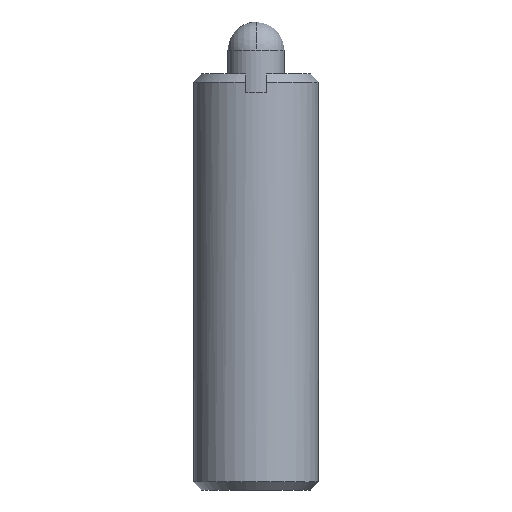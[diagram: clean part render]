
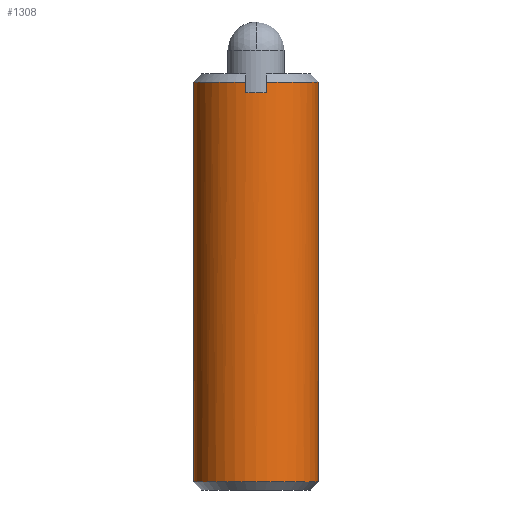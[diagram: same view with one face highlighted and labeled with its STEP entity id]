
A CAD part, front view. The second image highlights one B-rep face of the part: STEP entity #1308.
In plain terms, the highlighted cylindrical face has radius 3 mm (diameter 6 mm), a partial arc.
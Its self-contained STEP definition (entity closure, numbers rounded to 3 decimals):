
#43 = DIRECTION ( 'NONE',  ( 0., 0., 1. ) ) ;
#46 = VECTOR ( 'NONE', #467, 1000. ) ;
#52 = VECTOR ( 'NONE', #997, 1000. ) ;
#55 = EDGE_LOOP ( 'NONE', ( #273, #572, #573, #495, #479, #451, #667, #668 ) ) ;
#58 = CARTESIAN_POINT ( 'NONE',  ( 0.5, -2.958, -0.4 ) ) ;
#89 = CARTESIAN_POINT ( 'NONE',  ( 3., 0., -0.4 ) ) ;
#157 = VERTEX_POINT ( 'NONE', #1218 ) ;
#190 = VERTEX_POINT ( 'NONE', #936 ) ;
#210 = CIRCLE ( 'NONE', #731, 3. ) ;
#215 = CIRCLE ( 'NONE', #657, 3. ) ;
#242 = VERTEX_POINT ( 'NONE', #343 ) ;
#270 = EDGE_CURVE ( 'NONE', #772, #641, #1125, .T. ) ;
#273 = ORIENTED_EDGE ( 'NONE', *, *, #342, .F. ) ;
#342 = EDGE_CURVE ( 'NONE', #242, #190, #1633, .T. ) ;
#343 = CARTESIAN_POINT ( 'NONE',  ( -3., 0., -19.6 ) ) ;
#383 = EDGE_CURVE ( 'NONE', #190, #461, #1236, .T. ) ;
#437 = EDGE_CURVE ( 'NONE', #1513, #641, #948, .T. ) ;
#451 = ORIENTED_EDGE ( 'NONE', *, *, #542, .F. ) ;
#461 = VERTEX_POINT ( 'NONE', #1109 ) ;
#467 = DIRECTION ( 'NONE',  ( 0., 0., 1. ) ) ;
#479 = ORIENTED_EDGE ( 'NONE', *, *, #537, .T. ) ;
#495 = ORIENTED_EDGE ( 'NONE', *, *, #437, .F. ) ;
#529 = EDGE_CURVE ( 'NONE', #242, #772, #210, .T. ) ;
#537 = EDGE_CURVE ( 'NONE', #1513, #157, #993, .T. ) ;
#542 = EDGE_CURVE ( 'NONE', #1104, #157, #215, .T. ) ;
#545 = EDGE_CURVE ( 'NONE', #1104, #461, #1584, .T. ) ;
#552 = DIRECTION ( 'NONE',  ( 0., 0., 1. ) ) ;
#560 = CARTESIAN_POINT ( 'NONE',  ( 0., 0., -0.9 ) ) ;
#572 = ORIENTED_EDGE ( 'NONE', *, *, #529, .T. ) ;
#573 = ORIENTED_EDGE ( 'NONE', *, *, #270, .T. ) ;
#578 = FACE_OUTER_BOUND ( 'NONE', #55, .T. ) ;
#583 = CARTESIAN_POINT ( 'NONE',  ( -0.5, -2.958, 1. ) ) ;
#618 = DIRECTION ( 'NONE',  ( 0., 0., -1. ) ) ;
#620 = DIRECTION ( 'NONE',  ( 0., 0., 1. ) ) ;
#630 = CARTESIAN_POINT ( 'NONE',  ( 0.5, -2.958, 1. ) ) ;
#641 = VERTEX_POINT ( 'NONE', #89 ) ;
#657 = AXIS2_PLACEMENT_3D ( 'NONE', #560, #552, #1026 ) ;
#665 = DIRECTION ( 'NONE',  ( 1., 0., 0. ) ) ;
#667 = ORIENTED_EDGE ( 'NONE', *, *, #545, .T. ) ;
#668 = ORIENTED_EDGE ( 'NONE', *, *, #383, .F. ) ;
#674 = DIRECTION ( 'NONE',  ( 0., 0., 1. ) ) ;
#680 = CARTESIAN_POINT ( 'NONE',  ( 0., 0., -19.6 ) ) ;
#698 = CARTESIAN_POINT ( 'NONE',  ( 3., 0., 1. ) ) ;
#709 = DIRECTION ( 'NONE',  ( 1., 0., 0. ) ) ;
#731 = AXIS2_PLACEMENT_3D ( 'NONE', #680, #674, #665 ) ;
#772 = VERTEX_POINT ( 'NONE', #1077 ) ;
#795 = DIRECTION ( 'NONE',  ( 0., 0., 1. ) ) ;
#804 = CARTESIAN_POINT ( 'NONE',  ( 0., 0., 1. ) ) ;
#865 = CARTESIAN_POINT ( 'NONE',  ( -3., 0., 1. ) ) ;
#936 = CARTESIAN_POINT ( 'NONE',  ( -3., 0., -0.4 ) ) ;
#948 = CIRCLE ( 'NONE', #1010, 3. ) ;
#993 = LINE ( 'NONE', #630, #1384 ) ;
#997 = DIRECTION ( 'NONE',  ( 0., 0., 1. ) ) ;
#1007 = CARTESIAN_POINT ( 'NONE',  ( -0.5, -2.958, -0.9 ) ) ;
#1010 = AXIS2_PLACEMENT_3D ( 'NONE', #1237, #1213, #1207 ) ;
#1026 = DIRECTION ( 'NONE',  ( -1., 0., 0. ) ) ;
#1077 = CARTESIAN_POINT ( 'NONE',  ( 3., 0., -19.6 ) ) ;
#1104 = VERTEX_POINT ( 'NONE', #1007 ) ;
#1109 = CARTESIAN_POINT ( 'NONE',  ( -0.5, -2.958, -0.4 ) ) ;
#1125 = LINE ( 'NONE', #698, #46 ) ;
#1130 = AXIS2_PLACEMENT_3D ( 'NONE', #1547, #795, #1536 ) ;
#1207 = DIRECTION ( 'NONE',  ( 1., 0., 0. ) ) ;
#1213 = DIRECTION ( 'NONE',  ( 0., 0., 1. ) ) ;
#1218 = CARTESIAN_POINT ( 'NONE',  ( 0.5, -2.958, -0.9 ) ) ;
#1236 = CIRCLE ( 'NONE', #1130, 3. ) ;
#1237 = CARTESIAN_POINT ( 'NONE',  ( 0., 0., -0.4 ) ) ;
#1308 = ADVANCED_FACE ( 'NONE', ( #578 ), #1436, .T. ) ;
#1384 = VECTOR ( 'NONE', #618, 1000. ) ;
#1436 = CYLINDRICAL_SURFACE ( 'NONE', #1622, 3. ) ;
#1513 = VERTEX_POINT ( 'NONE', #58 ) ;
#1526 = VECTOR ( 'NONE', #620, 1000. ) ;
#1536 = DIRECTION ( 'NONE',  ( 1., 0., 0. ) ) ;
#1547 = CARTESIAN_POINT ( 'NONE',  ( 0., 0., -0.4 ) ) ;
#1584 = LINE ( 'NONE', #583, #1526 ) ;
#1622 = AXIS2_PLACEMENT_3D ( 'NONE', #804, #43, #709 ) ;
#1633 = LINE ( 'NONE', #865, #52 ) ;
